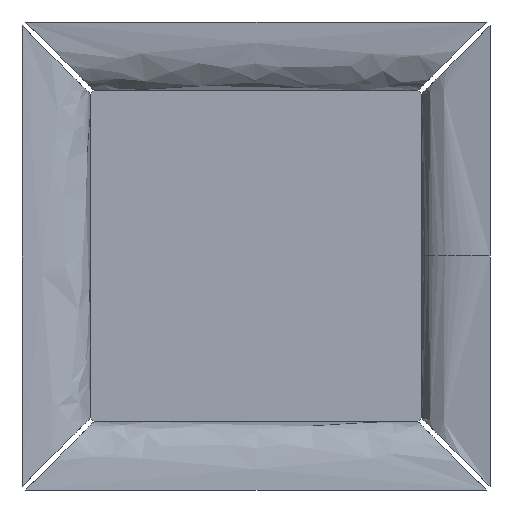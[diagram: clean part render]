
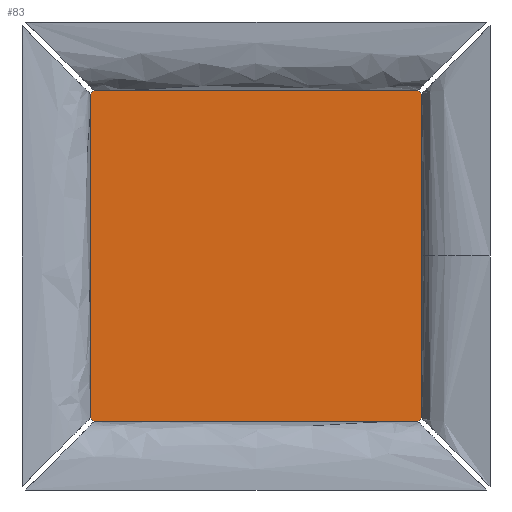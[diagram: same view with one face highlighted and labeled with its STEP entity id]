
A CAD part, front view. The second image highlights one B-rep face of the part: STEP entity #83.
In plain terms, the highlighted planar face has unit normal (0, -1, 0).
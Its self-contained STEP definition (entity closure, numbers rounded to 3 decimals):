
#83=ADVANCED_FACE('',(#145),#918,.T.);
#145=FACE_OUTER_BOUND('',#207,.T.);
#207=EDGE_LOOP('',(#459,#460,#461,#462,#463,#464,#465,#466));
#459=ORIENTED_EDGE('',*,*,#621,.F.);
#460=ORIENTED_EDGE('',*,*,#622,.F.);
#461=ORIENTED_EDGE('',*,*,#623,.F.);
#462=ORIENTED_EDGE('',*,*,#624,.F.);
#463=ORIENTED_EDGE('',*,*,#625,.F.);
#464=ORIENTED_EDGE('',*,*,#626,.F.);
#465=ORIENTED_EDGE('',*,*,#627,.F.);
#466=ORIENTED_EDGE('',*,*,#613,.F.);
#613=EDGE_CURVE('',#849,#863,#753,.T.);
#621=EDGE_CURVE('',#857,#849,#761,.T.);
#622=EDGE_CURVE('',#858,#857,#762,.T.);
#623=EDGE_CURVE('',#859,#858,#763,.T.);
#624=EDGE_CURVE('',#860,#859,#764,.T.);
#625=EDGE_CURVE('',#861,#860,#765,.T.);
#626=EDGE_CURVE('',#862,#861,#766,.T.);
#627=EDGE_CURVE('',#863,#862,#767,.T.);
#753=B_SPLINE_CURVE_WITH_KNOTS('',1,(#3491,#3492),.UNSPECIFIED.,.F.,.F.,
(2,2),(-295.151,-222.85),.UNSPECIFIED.);
#761=B_SPLINE_CURVE_WITH_KNOTS('',1,(#3507,#3508),.UNSPECIFIED.,.F.,.F.,
(2,2),(-2.344,-1.143),.UNSPECIFIED.);
#762=B_SPLINE_CURVE_WITH_KNOTS('',1,(#3509,#3510),.UNSPECIFIED.,.F.,.F.,
(2,2),(-74.644,-2.344),.UNSPECIFIED.);
#763=B_SPLINE_CURVE_WITH_KNOTS('',1,(#3511,#3512),.UNSPECIFIED.,.F.,.F.,
(2,2),(-75.846,-74.644),.UNSPECIFIED.);
#764=B_SPLINE_CURVE_WITH_KNOTS('',1,(#3513,#3514),.UNSPECIFIED.,.F.,.F.,
(2,2),(-148.146,-75.846),.UNSPECIFIED.);
#765=B_SPLINE_CURVE_WITH_KNOTS('',1,(#3515,#3516),.UNSPECIFIED.,.F.,.F.,
(2,2),(-149.348,-148.146),.UNSPECIFIED.);
#766=B_SPLINE_CURVE_WITH_KNOTS('',1,(#3517,#3518),.UNSPECIFIED.,.F.,.F.,
(2,2),(-221.648,-149.348),.UNSPECIFIED.);
#767=B_SPLINE_CURVE_WITH_KNOTS('',1,(#3519,#3520),.UNSPECIFIED.,.F.,.F.,
(2,2),(-222.85,-221.648),.UNSPECIFIED.);
#849=VERTEX_POINT('',#3472);
#857=VERTEX_POINT('',#3480);
#858=VERTEX_POINT('',#3481);
#859=VERTEX_POINT('',#3482);
#860=VERTEX_POINT('',#3483);
#861=VERTEX_POINT('',#3484);
#862=VERTEX_POINT('',#3485);
#863=VERTEX_POINT('',#3486);
#918=PLANE('',#1024);
#1024=AXIS2_PLACEMENT_3D('',#3463,#1046,$);
#1046=DIRECTION('',(0.,-1.,0.));
#3463=CARTESIAN_POINT('',(0.,11.339,692.661));
#3472=CARTESIAN_POINT('',(0.,11.339,-38.853));
#3480=CARTESIAN_POINT('',(8.5,11.339,-47.339));
#3481=CARTESIAN_POINT('',(731.5,11.339,-47.339));
#3482=CARTESIAN_POINT('',(740.,11.339,-38.839));
#3483=CARTESIAN_POINT('',(740.,11.339,684.161));
#3484=CARTESIAN_POINT('',(731.5,11.339,692.661));
#3485=CARTESIAN_POINT('',(8.5,11.339,692.661));
#3486=CARTESIAN_POINT('',(0.,11.339,684.161));
#3491=CARTESIAN_POINT('',(0.,11.339,-38.853));
#3492=CARTESIAN_POINT('',(0.,11.339,684.161));
#3507=CARTESIAN_POINT('',(8.5,11.339,-47.339));
#3508=CARTESIAN_POINT('',(0.,11.339,-38.853));
#3509=CARTESIAN_POINT('',(731.5,11.339,-47.339));
#3510=CARTESIAN_POINT('',(8.5,11.339,-47.339));
#3511=CARTESIAN_POINT('',(740.,11.339,-38.839));
#3512=CARTESIAN_POINT('',(731.5,11.339,-47.339));
#3513=CARTESIAN_POINT('',(740.,11.339,684.161));
#3514=CARTESIAN_POINT('',(740.,11.339,-38.839));
#3515=CARTESIAN_POINT('',(731.5,11.339,692.661));
#3516=CARTESIAN_POINT('',(740.,11.339,684.161));
#3517=CARTESIAN_POINT('',(8.5,11.339,692.661));
#3518=CARTESIAN_POINT('',(731.5,11.339,692.661));
#3519=CARTESIAN_POINT('',(0.,11.339,684.161));
#3520=CARTESIAN_POINT('',(8.5,11.339,692.661));
